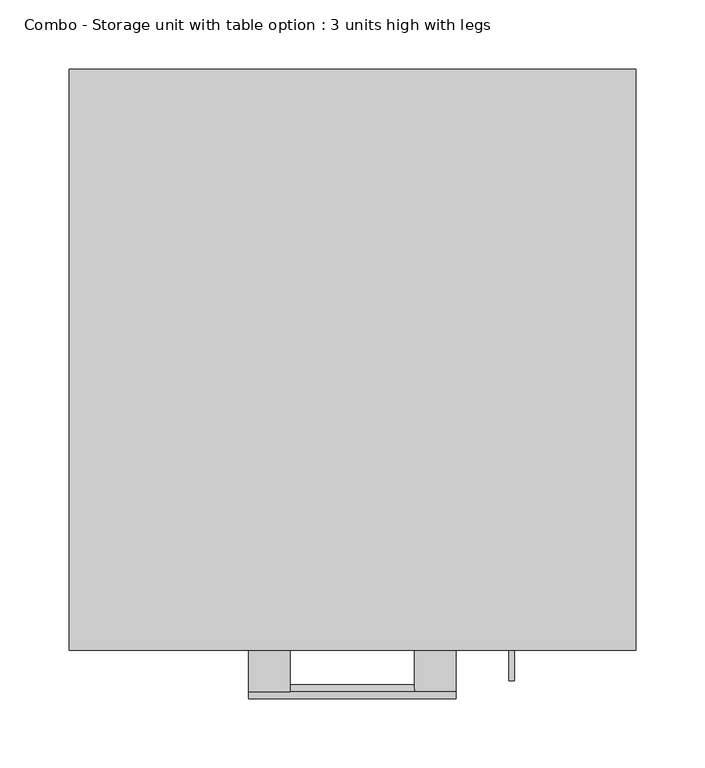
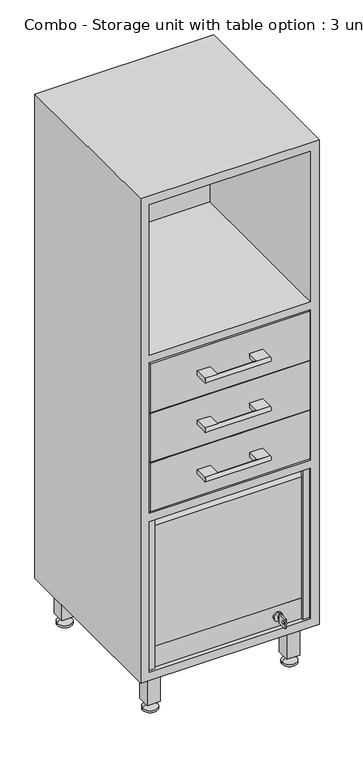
"""IFC4 building model written with IfcOpenShell, lengths in millimetres: furniture geometry, Combo - Storage unit with table option : 3 units high with legs."""

from ifc_helpers import new_model, si_unit, point, frame, frame_2d, origin, place, context, project, spatial, polyline, circle_curve, trimmed, segment, composite_curve, outline, extrude, faceted_brep, source, transform, mapped, element, save
from ifc_brep_helpers import plane_surface, cylinder_surface, revolved_surface, advanced_brep


def combo_storage_unit_with_table_option_3_units_high_with_legs_f63a31d1(model_context):
    return source(origin(), model_context, "Body", "SolidModel", [
        advanced_brep(
        [(-75.0, -450.0, 812.25), (-75.0, -420.0, 812.25), (-75.0, -420.0, 802.25), (-75.0, -450.0, 802.25), (-45.0, -450.0, 802.25), (-45.0, -420.0, 802.25), (-45.0, -420.0, 812.25), (-45.0, -450.0, 812.25), (75.0, -450.0, 812.25), (75.0, -450.0, 802.25), (75.0, -420.0, 802.25), (75.0, -420.0, 812.25), (45.0, -450.0, 812.25), (45.0, -450.0, 802.25), (45.0, -420.0, 812.25), (45.0, -420.0, 802.25)],
        [
            (0, 1),
            (1, 2),
            (2, 3),
            (3, 0, circle_curve(frame((-75.0, -450.0, 807.25), z_axis=(-1.0, 0.0, 0.0), x_axis=(0.0, 0.0, -1.0)), 5.0)),
            (4, 5),
            (5, 6),
            (6, 7),
            (7, 4, circle_curve(frame((-45.0, -450.0, 807.25), z_axis=(-1.0, 0.0, 0.0), x_axis=(0.0, 0.0, -1.0)), 5.0)),
            (2, 5),
            (4, 3),
            (1, 6),
            (0, 7),
            (8, 9, circle_curve(frame((75.0, -450.0, 807.25), z_axis=(1.0, 0.0, 0.0), x_axis=(0.0, 0.0, -1.0)), 5.0)),
            (9, 10),
            (10, 11),
            (11, 8),
            (8, 12),
            (12, 7),
            (4, 13),
            (13, 9),
            (12, 13, circle_curve(frame((45.0, -450.0, 807.25), z_axis=(-1.0, 0.0, 0.0), x_axis=(0.0, 0.0, -1.0)), 5.0)),
            (12, 14),
            (14, 15),
            (15, 13),
            (15, 10),
            (14, 11),
        ],
        [
            plane_surface(frame((-75.0, -450.0, 813.25), z_axis=(-1.0, 0.0, 0.0), x_axis=(0.0, 0.0, 1.0))),
            plane_surface(frame((-45.0, -450.0, 813.25), z_axis=(1.0, 0.0, 0.0), x_axis=(0.0, 0.0, -1.0))),
            plane_surface(frame((-75.0, -420.0, 802.25), z_axis=(0.0, 0.0, -1.0), x_axis=(1.0, 0.0, 0.0))),
            plane_surface(frame((-75.0, -420.0, 812.25), z_axis=(0.0, 1.0, 0.0), x_axis=(1.0, 0.0, 0.0))),
            plane_surface(frame((-75.0, -450.0, 812.25), z_axis=(0.0, 0.0, 1.0), x_axis=(1.0, 0.0, 0.0))),
            plane_surface(frame((75.0, -450.0, 802.25), z_axis=(1.0, 0.0, 0.0), x_axis=(0.0, 1.0, 0.0))),
            cylinder_surface(frame((-75.0, -450.0, 807.25), z_axis=(1.0, 0.0, 0.0), x_axis=(0.0, 0.0, -1.0)), 5.0),
            plane_surface(frame((45.0, -538.7415577, 802.25), z_axis=(-1.0, 0.0, 0.0), x_axis=(0.0, -1.0, 0.0))),
            plane_surface(frame((75.0, -450.0, 802.25), z_axis=(0.0, 0.0, -1.0), x_axis=(-1.0, 0.0, 0.0))),
            plane_surface(frame((75.0, -420.0, 802.25), z_axis=(0.0, 1.0, 0.0), x_axis=(-1.0, 0.0, 0.0))),
            plane_surface(frame((75.0, -420.0, 812.25), z_axis=(0.0, 0.0, 1.0), x_axis=(-1.0, 0.0, 0.0))),
        ],
        [
            (0, [[1, 2, 3, 4]]),
            (1, [[5, 6, 7, 8]]),
            (2, [[-3, 9, -5, 10]]),
            (3, [[-2, 11, -6, -9]]),
            (4, [[-1, 12, -7, -11]]),
            (5, [[13, 14, 15, 16]]),
            (6, [[-13, 17, 18, -12, -4, -10, 19, 20]]),
            (6, [[-8, -18, 21, -19]]),
            (7, [[22, 23, 24, -21]]),
            (8, [[-14, -20, -24, 25]]),
            (9, [[-15, -25, -23, 26]]),
            (10, [[-16, -26, -22, -17]]),
        ],
    ),
        advanced_brep(
        [(-75.0, -450.0, 572.25), (-75.0, -420.0, 572.25), (-75.0, -420.0, 562.25), (-75.0, -450.0, 562.25), (-45.0, -450.0, 562.25), (-45.0, -420.0, 562.25), (-45.0, -420.0, 572.25), (-45.0, -450.0, 572.25), (75.0, -450.0, 572.25), (75.0, -450.0, 562.25), (75.0, -420.0, 562.25), (75.0, -420.0, 572.25), (45.0, -450.0, 572.25), (45.0, -450.0, 562.25), (45.0, -420.0, 572.25), (45.0, -420.0, 562.25)],
        [
            (0, 1),
            (1, 2),
            (2, 3),
            (3, 0, circle_curve(frame((-75.0, -450.0, 567.25), z_axis=(-1.0, 0.0, 0.0), x_axis=(0.0, 0.0, -1.0)), 5.0)),
            (4, 5),
            (5, 6),
            (6, 7),
            (7, 4, circle_curve(frame((-45.0, -450.0, 567.25), z_axis=(-1.0, 0.0, 0.0), x_axis=(0.0, 0.0, -1.0)), 5.0)),
            (2, 5),
            (4, 3),
            (1, 6),
            (0, 7),
            (8, 9, circle_curve(frame((75.0, -450.0, 567.25), z_axis=(1.0, 0.0, 0.0), x_axis=(0.0, 0.0, -1.0)), 5.0)),
            (9, 10),
            (10, 11),
            (11, 8),
            (8, 12),
            (12, 7),
            (4, 13),
            (13, 9),
            (12, 13, circle_curve(frame((45.0, -450.0, 567.25), z_axis=(-1.0, 0.0, 0.0), x_axis=(0.0, 0.0, -1.0)), 5.0)),
            (12, 14),
            (14, 15),
            (15, 13),
            (15, 10),
            (14, 11),
        ],
        [
            plane_surface(frame((-75.0, -450.0, 573.25), z_axis=(-1.0, 0.0, 0.0), x_axis=(0.0, 0.0, 1.0))),
            plane_surface(frame((-45.0, -450.0, 573.25), z_axis=(1.0, 0.0, 0.0), x_axis=(0.0, 0.0, -1.0))),
            plane_surface(frame((-75.0, -420.0, 562.25), z_axis=(0.0, 0.0, -1.0), x_axis=(1.0, 0.0, 0.0))),
            plane_surface(frame((-75.0, -420.0, 572.25), z_axis=(0.0, 1.0, 0.0), x_axis=(1.0, 0.0, 0.0))),
            plane_surface(frame((-75.0, -450.0, 572.25), z_axis=(0.0, 0.0, 1.0), x_axis=(1.0, 0.0, 0.0))),
            plane_surface(frame((75.0, -450.0, 562.25), z_axis=(1.0, 0.0, 0.0), x_axis=(0.0, 1.0, 0.0))),
            cylinder_surface(frame((-75.0, -450.0, 567.25), z_axis=(1.0, 0.0, 0.0), x_axis=(0.0, 0.0, -1.0)), 5.0),
            plane_surface(frame((45.0, -538.7415577, 562.25), z_axis=(-1.0, 0.0, 0.0), x_axis=(0.0, -1.0, 0.0))),
            plane_surface(frame((75.0, -450.0, 562.25), z_axis=(0.0, 0.0, -1.0), x_axis=(-1.0, 0.0, 0.0))),
            plane_surface(frame((75.0, -420.0, 562.25), z_axis=(0.0, 1.0, 0.0), x_axis=(-1.0, 0.0, 0.0))),
            plane_surface(frame((75.0, -420.0, 572.25), z_axis=(0.0, 0.0, 1.0), x_axis=(-1.0, 0.0, 0.0))),
        ],
        [
            (0, [[1, 2, 3, 4]]),
            (1, [[5, 6, 7, 8]]),
            (2, [[-3, 9, -5, 10]]),
            (3, [[-2, 11, -6, -9]]),
            (4, [[-1, 12, -7, -11]]),
            (5, [[13, 14, 15, 16]]),
            (6, [[-13, 17, 18, -12, -4, -10, 19, 20]]),
            (6, [[-8, -18, 21, -19]]),
            (7, [[22, 23, 24, -21]]),
            (8, [[-14, -20, -24, 25]]),
            (9, [[-15, -25, -23, 26]]),
            (10, [[-16, -26, -22, -17]]),
        ],
    ),
        advanced_brep(
        [(-75.0, -450.0, 692.25), (-75.0, -420.0, 692.25), (-75.0, -420.0, 682.25), (-75.0, -450.0, 682.25), (-45.0, -450.0, 682.25), (-45.0, -420.0, 682.25), (-45.0, -420.0, 692.25), (-45.0, -450.0, 692.25), (75.0, -450.0, 692.25), (75.0, -450.0, 682.25), (75.0, -420.0, 682.25), (75.0, -420.0, 692.25), (45.0, -450.0, 692.25), (45.0, -450.0, 682.25), (45.0, -420.0, 692.25), (45.0, -420.0, 682.25)],
        [
            (0, 1),
            (1, 2),
            (2, 3),
            (3, 0, circle_curve(frame((-75.0, -450.0, 687.25), z_axis=(-1.0, 0.0, 0.0), x_axis=(0.0, 0.0, -1.0)), 5.0)),
            (4, 5),
            (5, 6),
            (6, 7),
            (7, 4, circle_curve(frame((-45.0, -450.0, 687.25), z_axis=(-1.0, 0.0, 0.0), x_axis=(0.0, 0.0, -1.0)), 5.0)),
            (2, 5),
            (4, 3),
            (1, 6),
            (0, 7),
            (8, 9, circle_curve(frame((75.0, -450.0, 687.25), z_axis=(1.0, 0.0, 0.0), x_axis=(0.0, 0.0, -1.0)), 5.0)),
            (9, 10),
            (10, 11),
            (11, 8),
            (8, 12),
            (12, 7),
            (4, 13),
            (13, 9),
            (12, 13, circle_curve(frame((45.0, -450.0, 687.25), z_axis=(-1.0, 0.0, 0.0), x_axis=(0.0, 0.0, -1.0)), 5.0)),
            (12, 14),
            (14, 15),
            (15, 13),
            (15, 10),
            (14, 11),
        ],
        [
            plane_surface(frame((-75.0, -450.0, 693.25), z_axis=(-1.0, 0.0, 0.0), x_axis=(0.0, 0.0, 1.0))),
            plane_surface(frame((-45.0, -450.0, 693.25), z_axis=(1.0, 0.0, 0.0), x_axis=(0.0, 0.0, -1.0))),
            plane_surface(frame((-75.0, -420.0, 682.25), z_axis=(0.0, 0.0, -1.0), x_axis=(1.0, 0.0, 0.0))),
            plane_surface(frame((-75.0, -420.0, 692.25), z_axis=(0.0, 1.0, 0.0), x_axis=(1.0, 0.0, 0.0))),
            plane_surface(frame((-75.0, -450.0, 692.25), z_axis=(0.0, 0.0, 1.0), x_axis=(1.0, 0.0, 0.0))),
            plane_surface(frame((75.0, -450.0, 682.25), z_axis=(1.0, 0.0, 0.0), x_axis=(0.0, 1.0, 0.0))),
            cylinder_surface(frame((-75.0, -450.0, 687.25), z_axis=(1.0, 0.0, 0.0), x_axis=(0.0, 0.0, -1.0)), 5.0),
            plane_surface(frame((45.0, -538.7415577, 682.25), z_axis=(-1.0, 0.0, 0.0), x_axis=(0.0, -1.0, 0.0))),
            plane_surface(frame((75.0, -450.0, 682.25), z_axis=(0.0, 0.0, -1.0), x_axis=(-1.0, 0.0, 0.0))),
            plane_surface(frame((75.0, -420.0, 682.25), z_axis=(0.0, 1.0, 0.0), x_axis=(-1.0, 0.0, 0.0))),
            plane_surface(frame((75.0, -420.0, 692.25), z_axis=(0.0, 0.0, 1.0), x_axis=(-1.0, 0.0, 0.0))),
        ],
        [
            (0, [[1, 2, 3, 4]]),
            (1, [[5, 6, 7, 8]]),
            (2, [[-3, 9, -5, 10]]),
            (3, [[-2, 11, -6, -9]]),
            (4, [[-1, 12, -7, -11]]),
            (5, [[13, 14, 15, 16]]),
            (6, [[-13, 17, 18, -12, -4, -10, 19, 20]]),
            (6, [[-8, -18, 21, -19]]),
            (7, [[22, 23, 24, -21]]),
            (8, [[-14, -20, -24, 25]]),
            (9, [[-15, -25, -23, 26]]),
            (10, [[-16, -26, -22, -17]]),
        ],
    ),
        extrude(outline(polyline([(183.0, -420.0), (-183.0, -420.0), (-183.0, -400.0), (183.0, -400.0), (183.0, -420.0)])), frame((0.0, 0.0, 748.25), z_axis=(0.0, 0.0, 1.0), x_axis=(1.0, 0.0, 0.0)), (0.0, 0.0, 1.0), 118.0),
        extrude(outline(polyline([(183.0, -420.0), (-183.0, -420.0), (-183.0, -400.0), (183.0, -400.0), (183.0, -420.0)])), frame((0.0, 0.0, 508.25), z_axis=(0.0, 0.0, 1.0), x_axis=(1.0, 0.0, 0.0)), (0.0, 0.0, 1.0), 118.0),
        extrude(outline(polyline([(183.0, -420.0), (-183.0, -420.0), (-183.0, -400.0), (183.0, -400.0), (183.0, -420.0)])), frame((0.0, 0.0, 628.25), z_axis=(0.0, 0.0, 1.0), x_axis=(1.0, 0.0, 0.0)), (0.0, 0.0, 1.0), 118.0),
        extrude(outline(composite_curve([segment(trimmed(circle_curve(frame_2d((145.0, 115.0)), 10.0), [point((145.0, 105.0))], [point((145.0, 125.0))], False, "CARTESIAN"), True, "CONTINUOUS"), segment(trimmed(circle_curve(frame_2d((145.0, 115.0)), 10.0), [point((145.0, 125.0))], [point((145.0, 105.0))], False, "CARTESIAN"), True, "CONTINUOUS")], self_intersect=False)), frame((0.0, -414.0, 0.0), z_axis=(0.0, 1.0, 0.0), x_axis=(0.0, 0.0, 1.0)), (0.0, 0.0, 1.0), 4.0),
        extrude(outline(polyline([(-442.0, 134.014113), (-442.0, 156.0), (-420.0, 156.0), (-420.0, 134.014113), (-442.0, 134.014113)]), holes=[composite_curve([segment(trimmed(circle_curve(frame_2d((-435.75, 145.0070565)), 3.2230706), [point((-435.75, 148.2301271))], [point((-435.75, 141.7839859))], True, "CARTESIAN"), True, "CONTINUOUS"), segment(trimmed(circle_curve(frame_2d((-435.75, 145.0070565)), 3.2230706), [point((-435.75, 141.7839859))], [point((-435.75, 148.2301271))], True, "CARTESIAN"), True, "CONTINUOUS")], self_intersect=False)]), frame((113.0, 0.0, 0.0), z_axis=(1.0, 0.0, 0.0), x_axis=(0.0, 1.0, 0.0)), (0.0, 0.0, 1.0), 4.0416064),
        extrude(outline(polyline([(116.0416064, -420.0), (114.0, -420.0), (114.0, -414.0), (116.0416064, -414.0), (116.0416064, -420.0)])), frame((0.0, 0.0, 141.014113), z_axis=(0.0, 0.0, 1.0), x_axis=(1.0, 0.0, 0.0)), (0.0, 0.0, 1.0), 7.985887),
        extrude(outline(composite_curve([segment(trimmed(circle_curve(frame_2d((-390.0, 462.75)), 20.0), [point((-410.0, 462.75))], [point((-390.0, 482.75))], False, "CARTESIAN"), True, "CONTINUOUS"), segment(polyline([(-390.0, 482.75), (-360.0, 482.75), (-360.0, 472.75), (-390.0, 472.75)]), True, "CONTINUOUS"), segment(trimmed(circle_curve(frame_2d((-390.0, 462.75)), 10.0), [point((-390.0, 472.75))], [point((-400.0, 462.75))], True, "CARTESIAN"), True, "CONTINUOUS"), segment(polyline([(-400.0, 462.75), (-400.0, 170.0), (-410.0, 170.0), (-410.0, 462.75)]), True, "CONTINUOUS")], self_intersect=False)), frame((-185.0, 0.0, 0.0), z_axis=(1.0, 0.0, 0.0), x_axis=(0.0, 1.0, 0.0)), (0.0, 0.0, 1.0), 370.0),
        extrude(outline(polyline([(185.0, -400.0), (185.0, -410.0), (-185.0, -410.0), (-185.0, -400.0), (185.0, -400.0)])), frame((0.0, 0.0, 120.0), z_axis=(0.0, 0.0, 1.0), x_axis=(1.0, 0.0, 0.0)), (0.0, 0.0, 1.0), 50.0),
        extrude(outline(polyline([(-170.0, -415.0), (-185.0, -415.0), (-185.0, -410.0), (-170.0, -410.0), (-170.0, -415.0)])), frame((0.0, 0.0, 120.0), z_axis=(0.0, 0.0, 1.0), x_axis=(1.0, 0.0, 0.0)), (0.0, 0.0, 1.0), 365.0),
        extrude(outline(polyline([(185.0, -415.0), (170.0, -415.0), (170.0, -410.0), (185.0, -410.0), (185.0, -415.0)])), frame((0.0, 0.0, 120.0), z_axis=(0.0, 0.0, 1.0), x_axis=(1.0, 0.0, 0.0)), (0.0, 0.0, 1.0), 365.0),
        extrude(outline(polyline([(-175.0, -365.0), (-145.0, -365.0), (-145.0, -395.0), (-175.0, -395.0), (-175.0, -365.0)])), frame((0.0, 0.0, 20.0), z_axis=(0.0, 0.0, 1.0), x_axis=(1.0, 0.0, 0.0)), (0.0, 0.0, 1.0), 80.0),
        extrude(outline(polyline([(175.0, -365.0), (175.0, -395.0), (145.0, -395.0), (145.0, -365.0), (175.0, -365.0)])), frame((0.0, 0.0, 20.0), z_axis=(0.0, 0.0, 1.0), x_axis=(1.0, 0.0, 0.0)), (0.0, 0.0, 1.0), 80.0),
        extrude(outline(polyline([(-175.0, -55.0), (-175.0, -25.0), (-145.0, -25.0), (-145.0, -55.0), (-175.0, -55.0)])), frame((0.0, 0.0, 20.0), z_axis=(0.0, 0.0, 1.0), x_axis=(1.0, 0.0, 0.0)), (0.0, 0.0, 1.0), 80.0),
        extrude(outline(polyline([(175.0, -55.0), (145.0, -55.0), (145.0, -25.0), (175.0, -25.0), (175.0, -55.0)])), frame((0.0, 0.0, 20.0), z_axis=(0.0, 0.0, 1.0), x_axis=(1.0, 0.0, 0.0)), (0.0, 0.0, 1.0), 80.0),
        advanced_brep(
        [(152.1856158, -40.0, 20.0), (167.8143842, -40.0, 20.0), (160.0, -40.0, 20.0), (152.1856158, -40.0, 14.2030034), (167.8143842, -40.0, 14.2030034), (142.9826125, -40.0, 5.0), (177.0173875, -40.0, 5.0), (142.9826125, -40.0, 0.0), (177.0173875, -40.0, 0.0), (160.0, -40.0, 0.0)],
        [
            (0, 1, circle_curve(frame((160.0, -40.0, 20.0), z_axis=(0.0, 0.0, 1.0), x_axis=(1.0, 0.0, 0.0)), 7.8143842)),
            (1, 2),
            (2, 0),
            (1, 0, circle_curve(frame((160.0, -40.0, 20.0), z_axis=(0.0, 0.0, 1.0), x_axis=(1.0, 0.0, 0.0)), 7.8143842)),
            (3, 4, circle_curve(frame((160.0, -40.0, 14.2030034), z_axis=(0.0, 0.0, 1.0), x_axis=(1.0, 0.0, 0.0)), 7.8143842)),
            (4, 1),
            (0, 3),
            (4, 3, circle_curve(frame((160.0, -40.0, 14.2030034), z_axis=(0.0, 0.0, 1.0), x_axis=(1.0, 0.0, 0.0)), 7.8143842)),
            (5, 6, circle_curve(frame((160.0, -40.0, 5.0), z_axis=(0.0, 0.0, 1.0), x_axis=(1.0, 0.0, 0.0)), 17.0173875)),
            (6, 4),
            (3, 5),
            (6, 5, circle_curve(frame((160.0, -40.0, 5.0), z_axis=(0.0, 0.0, 1.0), x_axis=(1.0, 0.0, 0.0)), 17.0173875)),
            (7, 8, circle_curve(frame((160.0, -40.0, 0.0), z_axis=(0.0, 0.0, 1.0), x_axis=(1.0, 0.0, 0.0)), 17.0173875)),
            (8, 6),
            (5, 7),
            (8, 7, circle_curve(frame((160.0, -40.0, 0.0), z_axis=(0.0, 0.0, 1.0), x_axis=(1.0, 0.0, 0.0)), 17.0173875)),
            (9, 8),
            (7, 9),
        ],
        [
            plane_surface(frame((160.0, -40.0, 20.0), z_axis=(0.0, 0.0, 1.0), x_axis=(1.0, 0.0, 0.0))),
            cylinder_surface(frame((160.0, -40.0, 20.0), z_axis=(0.0, 0.0, -1.0), x_axis=(1.0, 0.0, 0.0)), 7.8143842),
            revolved_surface(polyline([(167.8143842, -40.0, 14.2030034), (177.0173875, -40.0, 5.0)]), (160.0, -40.0, 20.0), (0.0, 0.0, -1.0)),
            cylinder_surface(frame((160.0, -40.0, 20.0), z_axis=(0.0, 0.0, -1.0), x_axis=(1.0, 0.0, 0.0)), 17.0173875),
            plane_surface(frame((160.0, -40.0, 0.0), z_axis=(0.0, 0.0, -1.0), x_axis=(1.0, 0.0, 0.0))),
        ],
        [
            (0, [[1, 2, 3]]),
            (0, [[4, -3, -2]]),
            (1, [[5, 6, -1, 7]]),
            (1, [[8, -7, -4, -6]]),
            (2, [[9, 10, -5, 11]]),
            (2, [[12, -11, -8, -10]]),
            (3, [[13, 14, -9, 15]]),
            (3, [[16, -15, -12, -14]]),
            (4, [[17, -13, 18]]),
            (4, [[-18, -16, -17]]),
        ],
    ),
        advanced_brep(
        [(-167.8143842, -40.0, 20.0), (-152.1856158, -40.0, 20.0), (-160.0, -40.0, 20.0), (-167.8143842, -40.0, 14.2030034), (-152.1856158, -40.0, 14.2030034), (-177.0173875, -40.0, 5.0), (-142.9826125, -40.0, 5.0), (-177.0173875, -40.0, 0.0), (-142.9826125, -40.0, 0.0), (-160.0, -40.0, 0.0)],
        [
            (0, 1, circle_curve(frame((-160.0, -40.0, 20.0), z_axis=(0.0, 0.0, 1.0), x_axis=(1.0, 0.0, 0.0)), 7.8143842)),
            (1, 2),
            (2, 0),
            (1, 0, circle_curve(frame((-160.0, -40.0, 20.0), z_axis=(0.0, 0.0, 1.0), x_axis=(1.0, 0.0, 0.0)), 7.8143842)),
            (3, 4, circle_curve(frame((-160.0, -40.0, 14.2030034), z_axis=(0.0, 0.0, 1.0), x_axis=(1.0, 0.0, 0.0)), 7.8143842)),
            (4, 1),
            (0, 3),
            (4, 3, circle_curve(frame((-160.0, -40.0, 14.2030034), z_axis=(0.0, 0.0, 1.0), x_axis=(1.0, 0.0, 0.0)), 7.8143842)),
            (5, 6, circle_curve(frame((-160.0, -40.0, 5.0), z_axis=(0.0, 0.0, 1.0), x_axis=(1.0, 0.0, 0.0)), 17.0173875)),
            (6, 4),
            (3, 5),
            (6, 5, circle_curve(frame((-160.0, -40.0, 5.0), z_axis=(0.0, 0.0, 1.0), x_axis=(1.0, 0.0, 0.0)), 17.0173875)),
            (7, 8, circle_curve(frame((-160.0, -40.0, 0.0), z_axis=(0.0, 0.0, 1.0), x_axis=(1.0, 0.0, 0.0)), 17.0173875)),
            (8, 6),
            (5, 7),
            (8, 7, circle_curve(frame((-160.0, -40.0, 0.0), z_axis=(0.0, 0.0, 1.0), x_axis=(1.0, 0.0, 0.0)), 17.0173875)),
            (9, 8),
            (7, 9),
        ],
        [
            plane_surface(frame((-160.0, -40.0, 20.0), z_axis=(0.0, 0.0, 1.0), x_axis=(1.0, 0.0, 0.0))),
            cylinder_surface(frame((-160.0, -40.0, 20.0), z_axis=(0.0, 0.0, -1.0), x_axis=(1.0, 0.0, 0.0)), 7.8143842),
            revolved_surface(polyline([(-152.1856158, -40.0, 14.2030034), (-142.9826125, -40.0, 5.0)]), (-160.0, -40.0, 20.0), (0.0, 0.0, -1.0)),
            cylinder_surface(frame((-160.0, -40.0, 20.0), z_axis=(0.0, 0.0, -1.0), x_axis=(1.0, 0.0, 0.0)), 17.0173875),
            plane_surface(frame((-160.0, -40.0, 0.0), z_axis=(0.0, 0.0, -1.0), x_axis=(1.0, 0.0, 0.0))),
        ],
        [
            (0, [[1, 2, 3]]),
            (0, [[4, -3, -2]]),
            (1, [[5, 6, -1, 7]]),
            (1, [[8, -7, -4, -6]]),
            (2, [[9, 10, -5, 11]]),
            (2, [[12, -11, -8, -10]]),
            (3, [[13, 14, -9, 15]]),
            (3, [[16, -15, -12, -14]]),
            (4, [[17, -13, 18]]),
            (4, [[-18, -16, -17]]),
        ],
    ),
        advanced_brep(
        [(152.1856158, -380.0, 20.0), (167.8143842, -380.0, 20.0), (160.0, -380.0, 20.0), (152.1856158, -380.0, 14.2030034), (167.8143842, -380.0, 14.2030034), (142.9826125, -380.0, 5.0), (177.0173875, -380.0, 5.0), (142.9826125, -380.0, 0.0), (177.0173875, -380.0, 0.0), (160.0, -380.0, 0.0)],
        [
            (0, 1, circle_curve(frame((160.0, -380.0, 20.0), z_axis=(0.0, 0.0, 1.0), x_axis=(1.0, 0.0, 0.0)), 7.8143842)),
            (1, 2),
            (2, 0),
            (1, 0, circle_curve(frame((160.0, -380.0, 20.0), z_axis=(0.0, 0.0, 1.0), x_axis=(1.0, 0.0, 0.0)), 7.8143842)),
            (3, 4, circle_curve(frame((160.0, -380.0, 14.2030034), z_axis=(0.0, 0.0, 1.0), x_axis=(1.0, 0.0, 0.0)), 7.8143842)),
            (4, 1),
            (0, 3),
            (4, 3, circle_curve(frame((160.0, -380.0, 14.2030034), z_axis=(0.0, 0.0, 1.0), x_axis=(1.0, 0.0, 0.0)), 7.8143842)),
            (5, 6, circle_curve(frame((160.0, -380.0, 5.0), z_axis=(0.0, 0.0, 1.0), x_axis=(1.0, 0.0, 0.0)), 17.0173875)),
            (6, 4),
            (3, 5),
            (6, 5, circle_curve(frame((160.0, -380.0, 5.0), z_axis=(0.0, 0.0, 1.0), x_axis=(1.0, 0.0, 0.0)), 17.0173875)),
            (7, 8, circle_curve(frame((160.0, -380.0, 0.0), z_axis=(0.0, 0.0, 1.0), x_axis=(1.0, 0.0, 0.0)), 17.0173875)),
            (8, 6),
            (5, 7),
            (8, 7, circle_curve(frame((160.0, -380.0, 0.0), z_axis=(0.0, 0.0, 1.0), x_axis=(1.0, 0.0, 0.0)), 17.0173875)),
            (9, 8),
            (7, 9),
        ],
        [
            plane_surface(frame((160.0, -380.0, 20.0), z_axis=(0.0, 0.0, 1.0), x_axis=(1.0, 0.0, 0.0))),
            cylinder_surface(frame((160.0, -380.0, 20.0), z_axis=(0.0, 0.0, -1.0), x_axis=(1.0, 0.0, 0.0)), 7.8143842),
            revolved_surface(polyline([(167.8143842, -380.0, 14.2030034), (177.0173875, -380.0, 5.0)]), (160.0, -380.0, 20.0), (0.0, 0.0, -1.0)),
            cylinder_surface(frame((160.0, -380.0, 20.0), z_axis=(0.0, 0.0, -1.0), x_axis=(1.0, 0.0, 0.0)), 17.0173875),
            plane_surface(frame((160.0, -380.0, 0.0), z_axis=(0.0, 0.0, -1.0), x_axis=(1.0, 0.0, 0.0))),
        ],
        [
            (0, [[1, 2, 3]]),
            (0, [[4, -3, -2]]),
            (1, [[5, 6, -1, 7]]),
            (1, [[8, -7, -4, -6]]),
            (2, [[9, 10, -5, 11]]),
            (2, [[12, -11, -8, -10]]),
            (3, [[13, 14, -9, 15]]),
            (3, [[16, -15, -12, -14]]),
            (4, [[17, -13, 18]]),
            (4, [[-18, -16, -17]]),
        ],
    ),
        advanced_brep(
        [(-167.8143842, -380.0, 20.0), (-152.1856158, -380.0, 20.0), (-160.0, -380.0, 20.0), (-167.8143842, -380.0, 14.2030034), (-152.1856158, -380.0, 14.2030034), (-177.0173875, -380.0, 5.0), (-142.9826125, -380.0, 5.0), (-177.0173875, -380.0, 0.0), (-142.9826125, -380.0, 0.0), (-160.0, -380.0, 0.0)],
        [
            (0, 1, circle_curve(frame((-160.0, -380.0, 20.0), z_axis=(0.0, 0.0, 1.0), x_axis=(1.0, 0.0, 0.0)), 7.8143842)),
            (1, 2),
            (2, 0),
            (1, 0, circle_curve(frame((-160.0, -380.0, 20.0), z_axis=(0.0, 0.0, 1.0), x_axis=(1.0, 0.0, 0.0)), 7.8143842)),
            (3, 4, circle_curve(frame((-160.0, -380.0, 14.2030034), z_axis=(0.0, 0.0, 1.0), x_axis=(1.0, 0.0, 0.0)), 7.8143842)),
            (4, 1),
            (0, 3),
            (4, 3, circle_curve(frame((-160.0, -380.0, 14.2030034), z_axis=(0.0, 0.0, 1.0), x_axis=(1.0, 0.0, 0.0)), 7.8143842)),
            (5, 6, circle_curve(frame((-160.0, -380.0, 5.0), z_axis=(0.0, 0.0, 1.0), x_axis=(1.0, 0.0, 0.0)), 17.0173875)),
            (6, 4),
            (3, 5),
            (6, 5, circle_curve(frame((-160.0, -380.0, 5.0), z_axis=(0.0, 0.0, 1.0), x_axis=(1.0, 0.0, 0.0)), 17.0173875)),
            (7, 8, circle_curve(frame((-160.0, -380.0, 0.0), z_axis=(0.0, 0.0, 1.0), x_axis=(1.0, 0.0, 0.0)), 17.0173875)),
            (8, 6),
            (5, 7),
            (8, 7, circle_curve(frame((-160.0, -380.0, 0.0), z_axis=(0.0, 0.0, 1.0), x_axis=(1.0, 0.0, 0.0)), 17.0173875)),
            (9, 8),
            (7, 9),
        ],
        [
            plane_surface(frame((-160.0, -380.0, 20.0), z_axis=(0.0, 0.0, 1.0), x_axis=(1.0, 0.0, 0.0))),
            cylinder_surface(frame((-160.0, -380.0, 20.0), z_axis=(0.0, 0.0, -1.0), x_axis=(1.0, 0.0, 0.0)), 7.8143842),
            revolved_surface(polyline([(-152.1856158, -380.0, 14.2030034), (-142.9826125, -380.0, 5.0)]), (-160.0, -380.0, 20.0), (0.0, 0.0, -1.0)),
            cylinder_surface(frame((-160.0, -380.0, 20.0), z_axis=(0.0, 0.0, -1.0), x_axis=(1.0, 0.0, 0.0)), 17.0173875),
            plane_surface(frame((-160.0, -380.0, 0.0), z_axis=(0.0, 0.0, -1.0), x_axis=(1.0, 0.0, 0.0))),
        ],
        [
            (0, [[1, 2, 3]]),
            (0, [[4, -3, -2]]),
            (1, [[5, 6, -1, 7]]),
            (1, [[8, -7, -4, -6]]),
            (2, [[9, 10, -5, 11]]),
            (2, [[12, -11, -8, -10]]),
            (3, [[13, 14, -9, 15]]),
            (3, [[16, -15, -12, -14]]),
            (4, [[17, -13, 18]]),
            (4, [[-18, -16, -17]]),
        ],
    ),
        faceted_brep([(205.0, 0.0, 1275.0), (-205.0, 0.0, 1275.0), (-205.0, -420.0, 1275.0), (205.0, -420.0, 1275.0), (-205.0, 0.0, 100.0), (205.0, 0.0, 100.0), (205.0, -420.0, 100.0), (-205.0, -420.0, 100.0), (185.0, -420.0, 870.0), (185.0, -420.0, 505.0), (-185.0, -420.0, 505.0), (-185.0, -420.0, 870.0), (185.0, -420.0, 1254.0), (185.0, -420.0, 889.0), (-185.0, -420.0, 889.0), (-185.0, -420.0, 1254.0), (185.0, -420.0, 485.0), (185.0, -420.0, 120.0), (-185.0, -420.0, 120.0), (-185.0, -420.0, 485.0), (185.0, -20.0, 505.0), (185.0, -20.0, 870.0), (-185.0, -20.0, 870.0), (-185.0, -20.0, 505.0), (185.0, -20.0, 889.0), (185.0, -20.0, 1254.0), (-185.0, -20.0, 1254.0), (-185.0, -20.0, 889.0), (185.0, -20.0, 120.0), (185.0, -20.0, 485.0), (-185.0, -20.0, 485.0), (-185.0, -20.0, 120.0)], [[[0, 1, 2, 3]], [[4, 5, 6, 7]], [[1, 0, 5, 4]], [[2, 1, 4, 7]], [[3, 2, 7, 6], [8, 9, 10, 11], [12, 13, 14, 15], [16, 17, 18, 19]], [[0, 3, 6, 5]], [[20, 21, 22, 23]], [[21, 20, 9, 8]], [[22, 21, 8, 11]], [[23, 22, 11, 10]], [[20, 23, 10, 9]], [[24, 25, 26, 27]], [[25, 24, 13, 12]], [[26, 25, 12, 15]], [[27, 26, 15, 14]], [[24, 27, 14, 13]], [[28, 29, 30, 31]], [[29, 28, 17, 16]], [[30, 29, 16, 19]], [[31, 30, 19, 18]], [[28, 31, 18, 17]]]),
    ])


if __name__ == "__main__":
    model = new_model("IFC4")
    model_context = context("Model", 3, world=origin())
    ifc_project = project(units=[si_unit("LENGTHUNIT", "METRE", prefix="MILLI")], contexts=[model_context])
    site = spatial("IfcSite", under=ifc_project)
    building = spatial("IfcBuilding", under=site)
    placement = place(None, origin())
    combo_storage_unit_with_table_option_3_units_high_with_legs_shape = combo_storage_unit_with_table_option_3_units_high_with_legs_f63a31d1(model_context)
    element("IfcFurniture", 1, ObjectType="Combo - Storage unit with table option : 3 units high with legs", at=placement, inside=building, context=model_context, shape_type="MappedRepresentation", body=[
        mapped(combo_storage_unit_with_table_option_3_units_high_with_legs_shape, transform((0.0, 0.0, 0.0), x_axis=(1.0, 0.0, 0.0), y_axis=(0.0, 1.0, 0.0), z_axis=(0.0, 0.0, 1.0))),
    ])
    save(model, "model.ifc")
